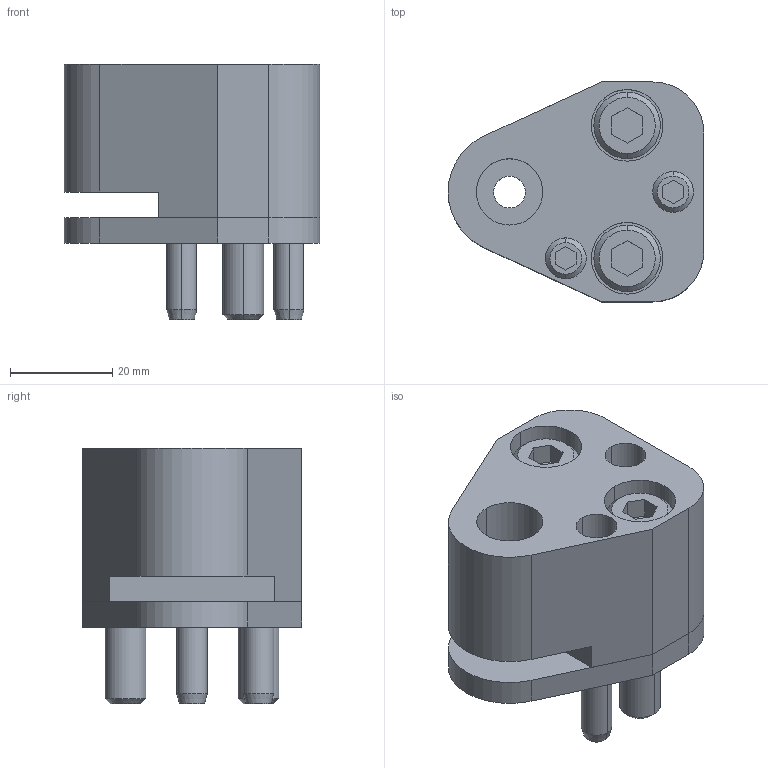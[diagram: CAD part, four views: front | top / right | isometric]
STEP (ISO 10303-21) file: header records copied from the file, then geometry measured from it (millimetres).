
FILE_DESCRIPTION(/* description */ (''),/* implementation_level */ '2;1');
FILE_NAME(/* name */ '3d_dp-fp13_02827_r00.stp',/* time_stamp */ '2011-01-10T14:15:55+09:00',/* author */ ('MISUMI'),/* organization */ (''),/* preprocessor_version */ 'ST-DEVELOPER v11',/* originating_system */ 'UGS - NX 5.0',/* authorisation */ '');
FILE_SCHEMA (('CONFIG_CONTROL_DESIGN'));
Length unit declared in the file: millimetre
Products named in the file (1): 3d_dp-fp13_02827_r00
Bounding box: 50 x 43 x 50 mm (x, y, z)
Volume: 51704.2 mm3; surface area: 21139.5 mm2
Topology: 8 solids, 8 shells, 154 faces, 350 edges, 225 vertices
Faces by surface type: plane 68, cylinder 60, cone 26
Entity records: 4496 total; most frequent: DIRECTION 802, CARTESIAN_POINT 783, ORIENTED_EDGE 700, EDGE_CURVE 350, AXIS2_PLACEMENT_3D 302, VERTEX_POINT 225, LINE 198, VECTOR 198
